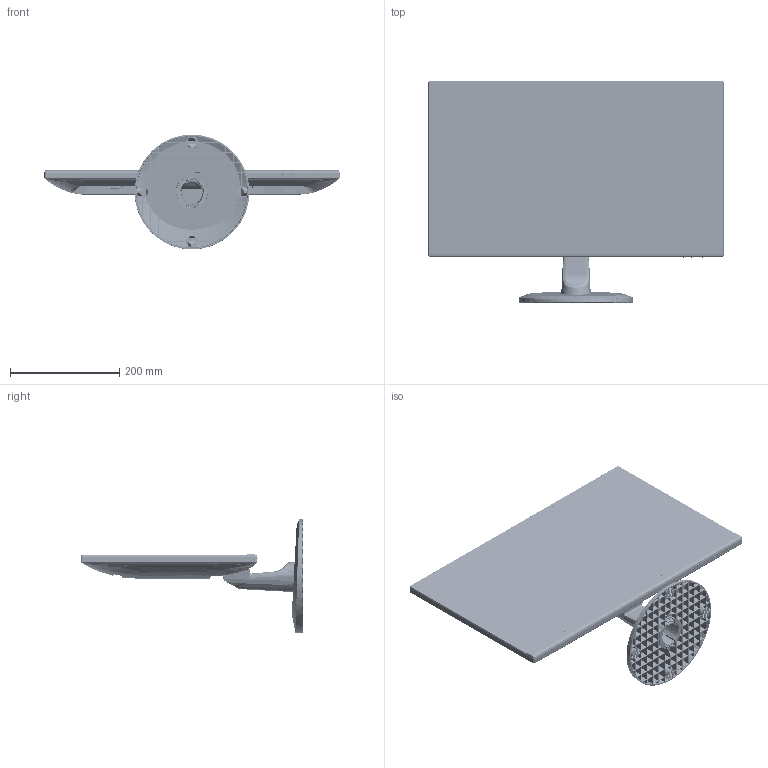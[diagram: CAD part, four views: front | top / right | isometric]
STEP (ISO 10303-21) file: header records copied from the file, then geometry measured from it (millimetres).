
FILE_DESCRIPTION (( 'STEP AP214' ), '1' );
FILE_NAME ('997-8227.STEP', '2016-04-12T21:52:57', ( '' ), ( '' ), 'SwSTEP 2.0', 'SolidWorks 2016', '' );
FILE_SCHEMA (( 'AUTOMOTIVE_DESIGN' ));
Products named in the file (1): 997-8227
Bounding box: 541 x 407.9 x 209.91 mm (x, y, z)
Surface area: 1300490.1 mm2 (no closed solid volume)
Topology: 0 solids, 29 shells, 10224 faces, 27636 edges, 18042 vertices
Faces by surface type: plane 6059, cylinder 2784, bspline 1158, cone 203, torus 20
Entity records: 424294 total; most frequent: CARTESIAN_POINT 182598, ORIENTED_EDGE 55078, DIRECTION 41475, EDGE_CURVE 27541, VERTEX_POINT 18028, LINE 15809, VECTOR 15809, AXIS2_PLACEMENT_3D 12833
